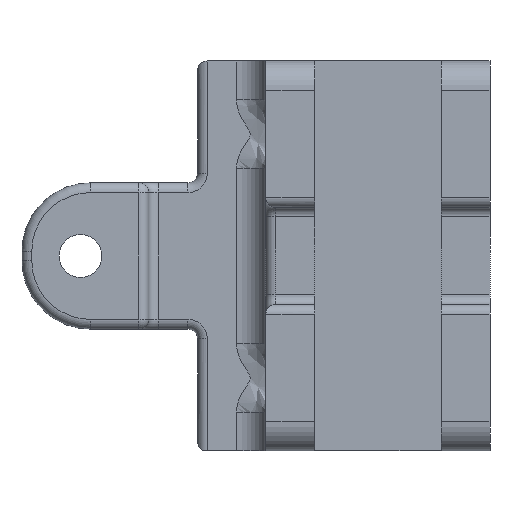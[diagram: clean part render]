
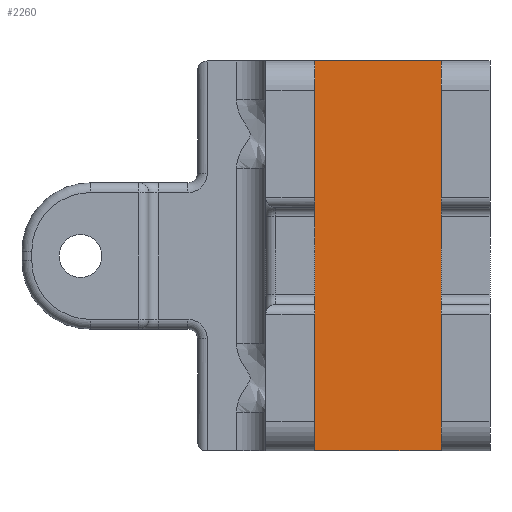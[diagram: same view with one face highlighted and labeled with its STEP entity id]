
A CAD part, left-side view. The second image highlights one B-rep face of the part: STEP entity #2260.
In plain terms, the highlighted planar face has unit normal (-1, 0, 0).
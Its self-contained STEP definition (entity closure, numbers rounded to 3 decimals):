
#95 = CARTESIAN_POINT ( 'NONE',  ( 20., 5., 20. ) ) ;
#158 = ORIENTED_EDGE ( 'NONE', *, *, #1352, .F. ) ;
#189 = CARTESIAN_POINT ( 'NONE',  ( 20., 5., -20. ) ) ;
#348 = DIRECTION ( 'NONE',  ( 0., 0., -1. ) ) ;
#362 = VERTEX_POINT ( 'NONE', #189 ) ;
#525 = CARTESIAN_POINT ( 'NONE',  ( 20., 18., 20. ) ) ;
#601 = ORIENTED_EDGE ( 'NONE', *, *, #3005, .T. ) ;
#665 = VERTEX_POINT ( 'NONE', #2325 ) ;
#709 = CARTESIAN_POINT ( 'NONE',  ( 20., 18., 20. ) ) ;
#773 = DIRECTION ( 'NONE',  ( 0., -1., 0. ) ) ;
#793 = VECTOR ( 'NONE', #2492, 1000. ) ;
#818 = DIRECTION ( 'NONE',  ( 0., 1., 0. ) ) ;
#836 = VECTOR ( 'NONE', #3378, 1000. ) ;
#895 = VERTEX_POINT ( 'NONE', #3051 ) ;
#1352 = EDGE_CURVE ( 'NONE', #1815, #665, #1865, .T. ) ;
#1442 = LINE ( 'NONE', #525, #836 ) ;
#1767 = EDGE_CURVE ( 'NONE', #665, #362, #2895, .T. ) ;
#1815 = VERTEX_POINT ( 'NONE', #709 ) ;
#1865 = LINE ( 'NONE', #2980, #2281 ) ;
#2028 = EDGE_LOOP ( 'NONE', ( #601, #3052, #158, #2418 ) ) ;
#2055 = EDGE_CURVE ( 'NONE', #1815, #895, #1442, .T. ) ;
#2260 = ADVANCED_FACE ( 'NONE', ( #3627 ), #2764, .F. ) ;
#2281 = VECTOR ( 'NONE', #773, 1000. ) ;
#2314 = AXIS2_PLACEMENT_3D ( 'NONE', #3407, #3607, #818 ) ;
#2325 = CARTESIAN_POINT ( 'NONE',  ( 20., 5., 20. ) ) ;
#2418 = ORIENTED_EDGE ( 'NONE', *, *, #2055, .T. ) ;
#2430 = CARTESIAN_POINT ( 'NONE',  ( 20., 18., -20. ) ) ;
#2449 = LINE ( 'NONE', #2430, #793 ) ;
#2492 = DIRECTION ( 'NONE',  ( 0., -1., 0. ) ) ;
#2764 = PLANE ( 'NONE',  #2314 ) ;
#2895 = LINE ( 'NONE', #95, #2996 ) ;
#2980 = CARTESIAN_POINT ( 'NONE',  ( 20., 18., 20. ) ) ;
#2996 = VECTOR ( 'NONE', #348, 1000. ) ;
#3005 = EDGE_CURVE ( 'NONE', #895, #362, #2449, .T. ) ;
#3051 = CARTESIAN_POINT ( 'NONE',  ( 20., 18., -20. ) ) ;
#3052 = ORIENTED_EDGE ( 'NONE', *, *, #1767, .F. ) ;
#3378 = DIRECTION ( 'NONE',  ( 0., 0., -1. ) ) ;
#3407 = CARTESIAN_POINT ( 'NONE',  ( 20., 18., 20. ) ) ;
#3607 = DIRECTION ( 'NONE',  ( 1., 0., 0. ) ) ;
#3627 = FACE_OUTER_BOUND ( 'NONE', #2028, .T. ) ;
